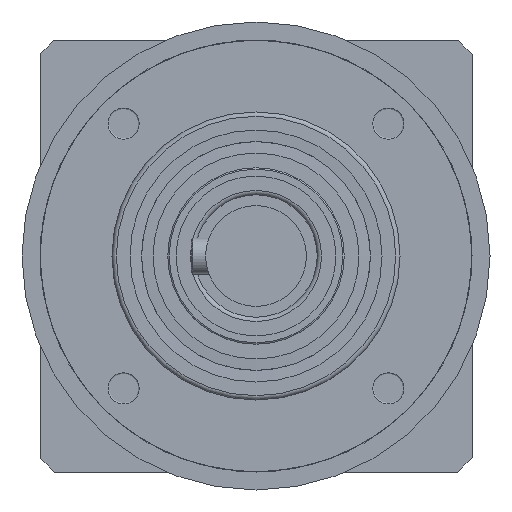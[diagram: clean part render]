
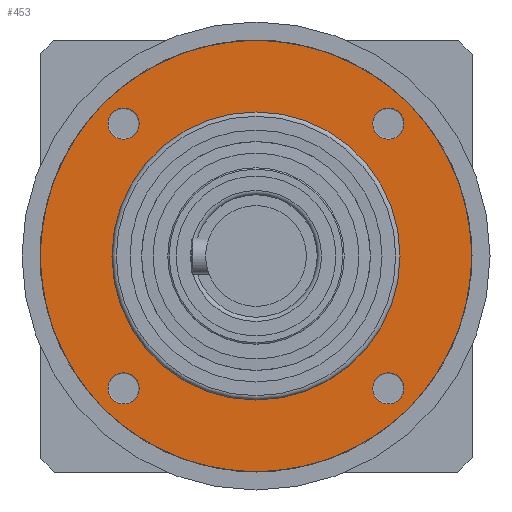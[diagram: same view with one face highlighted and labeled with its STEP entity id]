
A CAD part, left-side view. The second image highlights one B-rep face of the part: STEP entity #453.
In plain terms, the highlighted planar face has unit normal (-1, 0, 0).
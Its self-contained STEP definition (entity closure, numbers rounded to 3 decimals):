
#337=PLANE('',#2014);
#453=ADVANCED_FACE('',(#672,#673,#674,#675,#676),#337,.T.);
#672=FACE_BOUND('',#894,.T.);
#673=FACE_BOUND('',#895,.T.);
#674=FACE_BOUND('',#896,.T.);
#675=FACE_BOUND('',#897,.T.);
#676=FACE_BOUND('',#898,.T.);
#894=EDGE_LOOP('',(#1172));
#895=EDGE_LOOP('',(#1173));
#896=EDGE_LOOP('',(#1174));
#897=EDGE_LOOP('',(#1175));
#898=EDGE_LOOP('',(#1176));
#1172=ORIENTED_EDGE('',*,*,#1654,.T.);
#1173=ORIENTED_EDGE('',*,*,#1655,.T.);
#1174=ORIENTED_EDGE('',*,*,#1656,.T.);
#1175=ORIENTED_EDGE('',*,*,#1657,.T.);
#1176=ORIENTED_EDGE('',*,*,#1658,.T.);
#1472=VERTEX_POINT('',#2945);
#1473=VERTEX_POINT('',#2947);
#1474=VERTEX_POINT('',#2949);
#1475=VERTEX_POINT('',#2951);
#1476=VERTEX_POINT('',#2953);
#1654=EDGE_CURVE('',#1472,#1472,#1826,.T.);
#1655=EDGE_CURVE('',#1473,#1473,#1827,.T.);
#1656=EDGE_CURVE('',#1474,#1474,#1828,.T.);
#1657=EDGE_CURVE('',#1475,#1475,#1829,.T.);
#1658=EDGE_CURVE('',#1476,#1476,#1830,.T.);
#1826=CIRCLE('',#2009,2.175);
#1827=CIRCLE('',#2010,2.175);
#1828=CIRCLE('',#2011,2.175);
#1829=CIRCLE('',#2012,2.175);
#1830=CIRCLE('',#2013,30.);
#2009=AXIS2_PLACEMENT_3D('',#2944,#2404,#2405);
#2010=AXIS2_PLACEMENT_3D('',#2946,#2406,#2407);
#2011=AXIS2_PLACEMENT_3D('',#2948,#2408,#2409);
#2012=AXIS2_PLACEMENT_3D('',#2950,#2410,#2411);
#2013=AXIS2_PLACEMENT_3D('',#2952,#2412,#2413);
#2014=AXIS2_PLACEMENT_3D('',#2954,#2414,#2415);
#2404=DIRECTION('',(1.,0.,0.));
#2405=DIRECTION('',(0.,-0.707,0.707));
#2406=DIRECTION('',(1.,0.,0.));
#2407=DIRECTION('',(0.,-0.707,-0.707));
#2408=DIRECTION('',(1.,0.,0.));
#2409=DIRECTION('',(0.,0.707,-0.707));
#2410=DIRECTION('',(1.,0.,0.));
#2411=DIRECTION('',(0.,0.707,0.707));
#2412=DIRECTION('',(-1.,0.,0.));
#2413=DIRECTION('',(0.,0.707,0.707));
#2414=DIRECTION('',(-1.,0.,0.));
#2415=DIRECTION('',(0.,0.707,0.707));
#2944=CARTESIAN_POINT('',(-57.55,18.385,18.385));
#2945=CARTESIAN_POINT('',(-57.55,16.847,19.923));
#2946=CARTESIAN_POINT('',(-57.55,-18.385,18.385));
#2947=CARTESIAN_POINT('',(-57.55,-19.923,16.847));
#2948=CARTESIAN_POINT('',(-57.55,-18.385,-18.385));
#2949=CARTESIAN_POINT('',(-57.55,-16.847,-19.923));
#2950=CARTESIAN_POINT('',(-57.55,18.385,-18.385));
#2951=CARTESIAN_POINT('',(-57.55,19.923,-16.847));
#2952=CARTESIAN_POINT('',(-57.55,0.,0.));
#2953=CARTESIAN_POINT('',(-57.55,21.213,21.213));
#2954=CARTESIAN_POINT('',(-57.55,0.,0.));
